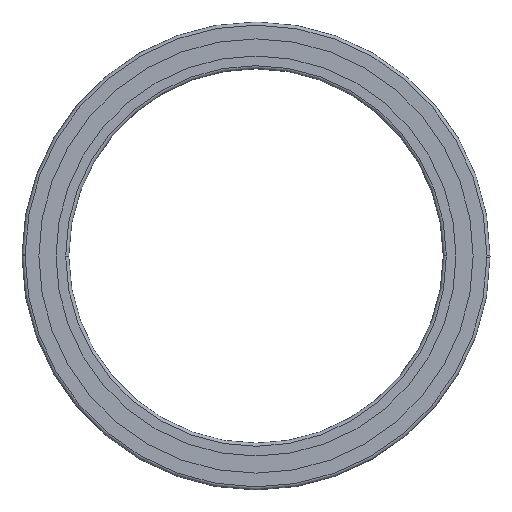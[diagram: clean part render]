
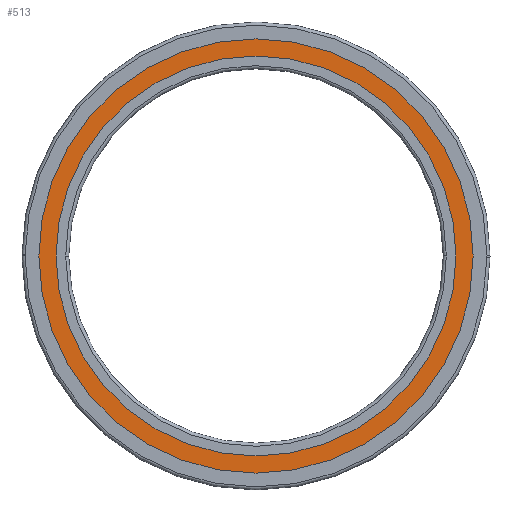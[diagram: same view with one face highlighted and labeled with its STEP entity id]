
A CAD part, front view. The second image highlights one B-rep face of the part: STEP entity #513.
In plain terms, the highlighted planar face has unit normal (0, -1, 0).
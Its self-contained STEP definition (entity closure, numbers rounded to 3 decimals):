
#369=VERTEX_POINT('',#913);
#379=EDGE_CURVE('',#369,#703,#924,.T.);
#445=VERTEX_POINT('',#1001);
#465=VERTEX_POINT('',#1023);
#477=EDGE_CURVE('',#703,#369,#1035,.T.);
#513=ADVANCED_FACE('',(#1073,#1074),#1075,.F.);
#581=EDGE_CURVE('',#445,#465,#1153,.T.);
#627=EDGE_CURVE('',#465,#445,#1208,.T.);
#703=VERTEX_POINT('',#1293);
#913=CARTESIAN_POINT('',(-64.1,0.0,0.0));
#924=CIRCLE('',#1541,64.1);
#1001=CARTESIAN_POINT('',(69.6,0.0,0.0));
#1023=CARTESIAN_POINT('',(-69.6,0.0,0.));
#1035=CIRCLE('',#1681,64.1);
#1073=FACE_OUTER_BOUND('',#1731,.T.);
#1074=FACE_BOUND('',#1732,.T.);
#1075=PLANE('',#1733);
#1153=CIRCLE('',#1835,69.6);
#1208=CIRCLE('',#1901,69.6);
#1293=CARTESIAN_POINT('',(64.1,0.0,0.0));
#1541=AXIS2_PLACEMENT_3D('',#2265,#2266,#2267);
#1681=AXIS2_PLACEMENT_3D('',#2397,#2398,#2399);
#1731=EDGE_LOOP('',(#2448,#2449));
#1732=EDGE_LOOP('',(#2450,#2451));
#1733=AXIS2_PLACEMENT_3D('',#2452,#2453,#2454);
#1835=AXIS2_PLACEMENT_3D('',#2569,#2570,#2571);
#1901=AXIS2_PLACEMENT_3D('',#2657,#2658,#2659);
#2265=CARTESIAN_POINT('',(0.0,0.0,0.0));
#2266=DIRECTION('',(0.0,-1.0,0.0));
#2267=DIRECTION('',(-1.0,0.0,0.0));
#2397=CARTESIAN_POINT('',(0.0,0.0,0.0));
#2398=DIRECTION('',(0.0,-1.0,0.0));
#2399=DIRECTION('',(1.0,0.0,0.0));
#2448=ORIENTED_EDGE('',*,*,#627,.F.);
#2449=ORIENTED_EDGE('',*,*,#581,.F.);
#2450=ORIENTED_EDGE('',*,*,#379,.F.);
#2451=ORIENTED_EDGE('',*,*,#477,.F.);
#2452=CARTESIAN_POINT('',(0.0,0.0,0.0));
#2453=DIRECTION('',(0.0,1.0,0.0));
#2454=DIRECTION('',(1.0,0.0,-0.0));
#2569=CARTESIAN_POINT('',(0.0,0.0,0.0));
#2570=DIRECTION('',(-0.0,1.0,0.0));
#2571=DIRECTION('',(1.0,0.0,0.0));
#2657=CARTESIAN_POINT('',(0.0,0.0,0.0));
#2658=DIRECTION('',(0.0,1.0,0.0));
#2659=DIRECTION('',(-1.0,0.0,0.0));
